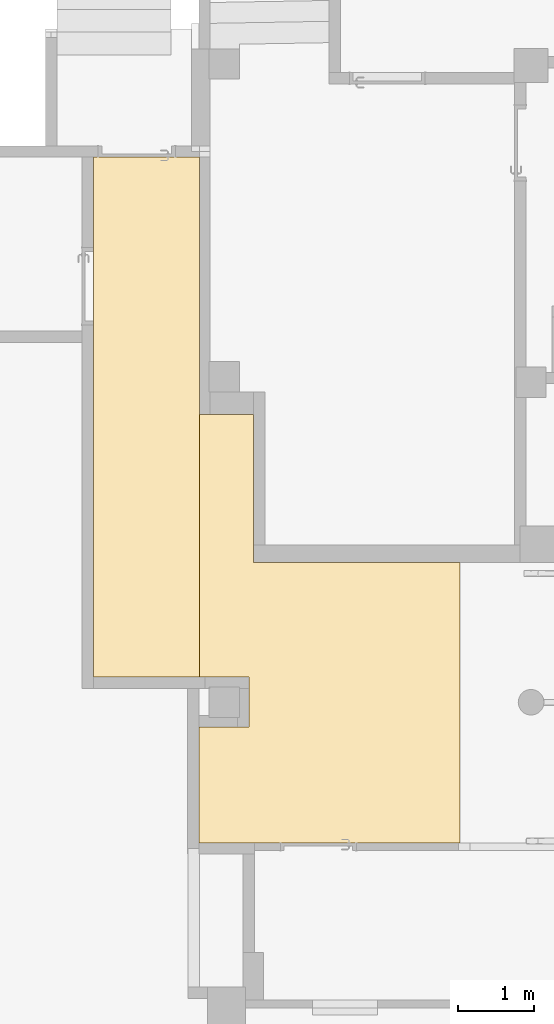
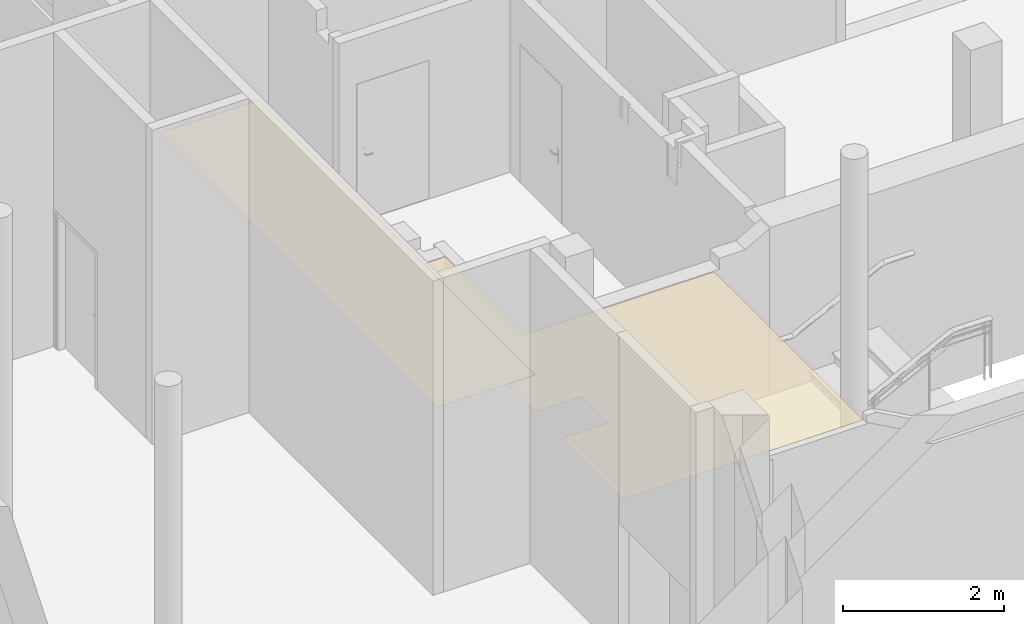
# One storey, part 35 of 39: 2 coverings.
"""IFC4 building model written with IfcOpenShell, lengths in metres."""

import ifcopenshell
import ifcopenshell.guid

model = None  # the IFC model being written
_history = None  # IfcOwnerHistory: only IFC2X3 demands one
_inside = {}  # id of a spatial element -> (the spatial element, [elements in it])
_under = {}  # id of a project, library or spatial element -> (it, [spatial elements below it])
_declared = {}  # id of a project -> (the project, [libraries it declares])
_typed = {}  # id of a type object -> (the type object, [elements of that type])
_made_of = {}  # id of a material, layer set ... -> (it, [elements and type objects made of it])


def new_model(schema):
    """Start an empty IFC model of exactly this schema.

    Asked for "IFC4X3", IfcOpenShell would pick the latest addendum, in which some entities
    have other attributes; the version numbers below select the first issue.
    IFC2X3 requires an IfcOwnerHistory on every rooted entity: one is made here for all.
    """
    global model, _history
    if schema == "IFC4X3":
        model = ifcopenshell.file(schema_version=(4, 3, 0, 0))
    else:
        model = ifcopenshell.file(schema=schema)
    _inside.clear()
    _under.clear()
    _declared.clear()
    _typed.clear()
    _made_of.clear()
    _history = None
    if model.schema == "IFC2X3":
        org = make("IfcOrganization", Name="unknown")
        user = make(
            "IfcPersonAndOrganization",
            ThePerson=make("IfcPerson", FamilyName="unknown"),
            TheOrganization=org,
        )
        app = make(
            "IfcApplication",
            ApplicationDeveloper=org,
            Version="unknown",
            ApplicationFullName="unknown",
            ApplicationIdentifier="unknown",
        )
        _history = make(
            "IfcOwnerHistory",
            OwningUser=user,
            OwningApplication=app,
            ChangeAction="ADDED",
            CreationDate=0,
        )
    return model


def make(cls, **values):
    """One entity of the class cls with the attributes given. An attribute that is None is left unset."""
    return model.create_entity(
        cls, **{name: value for name, value in values.items() if value is not None}
    )


def entity(cls, *values):
    """Any entity or typed value of the class cls, its attributes in the order of the schema. None: left unset."""
    e = model.create_entity(cls)
    for i, value in enumerate(values):
        if value is not None:
            e[i] = value
    return e


def rooted(cls, **values):
    """An entity with a GlobalId (a new one), such as an element, a storey or a relation."""
    return make(cls, GlobalId=ifcopenshell.guid.new(), OwnerHistory=_history, **values)


def si_unit(unit_type, name, prefix=None):
    """IfcSIUnit, for example si_unit("LENGTHUNIT", "METRE", prefix="MILLI")."""
    return make("IfcSIUnit", UnitType=unit_type, Prefix=prefix, Name=name)


def converted_unit(unit_type, name, factor, base, dimensions=None, offset=None):
    """IfcConversionBasedUnit, such as the inch: factor (a typed value) times the base unit."""
    return make(
        "IfcConversionBasedUnit"
        if offset is None
        else "IfcConversionBasedUnitWithOffset",
        ConversionOffset=offset,
        Dimensions=None
        if dimensions is None
        else entity("IfcDimensionalExponents", *dimensions),
        UnitType=unit_type,
        Name=name,
        ConversionFactor=make(
            "IfcMeasureWithUnit", ValueComponent=factor, UnitComponent=base
        ),
    )


def derived_unit(unit_type, elements):
    """IfcDerivedUnit: a product of units, each with its exponent."""
    return make(
        "IfcDerivedUnit",
        Elements=[
            make("IfcDerivedUnitElement", Unit=unit, Exponent=power)
            for unit, power in elements
        ],
        UnitType=unit_type,
    )


def assignment(units):
    """IfcUnitAssignment: the units of a project."""
    return None if units is None else make("IfcUnitAssignment", Units=units)


def point(xyz):
    """IfcCartesianPoint."""
    return None if xyz is None else make("IfcCartesianPoint", Coordinates=xyz)


def direction(xyz):
    """IfcDirection."""
    return None if xyz is None else make("IfcDirection", DirectionRatios=xyz)


def frame(location, z_axis=None, x_axis=None):
    """IfcAxis2Placement3D, a coordinate frame: its origin and axes. An axis left out is left unset."""
    return make(
        "IfcAxis2Placement3D",
        Location=point(location),
        Axis=direction(z_axis),
        RefDirection=direction(x_axis),
    )


def origin():
    """The frame at (0, 0, 0) with its axes left unset."""
    return frame((0.0, 0.0, 0.0))


def place(relative_to, where):
    """IfcLocalPlacement: puts the frame where relative to a parent placement (None: the world)."""
    return make(
        "IfcLocalPlacement", PlacementRelTo=relative_to, RelativePlacement=where
    )


def context(
    kind, dimensions, precision=None, world=None, true_north=None, identifier=None
):
    """IfcGeometricRepresentationContext, for example the 3D "Model" context."""
    return make(
        "IfcGeometricRepresentationContext",
        ContextIdentifier=identifier,
        ContextType=kind,
        CoordinateSpaceDimension=dimensions,
        Precision=precision,
        WorldCoordinateSystem=world,
        TrueNorth=true_north,
    )


def subcontext(parent, identifier, kind, view, scale=None):
    """IfcGeometricRepresentationSubContext, for example "Body" below "Model"."""
    return make(
        "IfcGeometricRepresentationSubContext",
        ContextIdentifier=identifier,
        ContextType=kind,
        ParentContext=parent,
        TargetScale=scale,
        TargetView=view,
    )


def project(units=None, contexts=None):
    """IfcProject with its units and contexts."""
    return rooted(
        "IfcProject",
        Name="project",
        RepresentationContexts=contexts,
        UnitsInContext=assignment(units),
    )


def spatial(cls, under=None, at=None, **own):
    """A site, building, storey or space (cls), placed at a placement, below another one or the project."""
    s = rooted(cls, ObjectPlacement=at, **own)
    if under is not None:
        _under.setdefault(under.id(), (under, []))[1].append(s)
    return s


def point_list(points):
    """IfcCartesianPointList2D or 3D."""
    cls = (
        "IfcCartesianPointList2D" if len(points[0]) == 2 else "IfcCartesianPointList3D"
    )
    return make(cls, CoordList=points)


def polygons(points, faces, closed=None, point_numbers=None):
    """IfcPolygonalFaceSet: a face is its outer loop, then its inner loops; points numbered from 1."""
    made = []
    for loops in faces:
        if len(loops) == 1:
            made.append(make("IfcIndexedPolygonalFace", CoordIndex=loops[0]))
        else:
            made.append(
                make(
                    "IfcIndexedPolygonalFaceWithVoids",
                    CoordIndex=loops[0],
                    InnerCoordIndices=loops[1:],
                )
            )
    return make(
        "IfcPolygonalFaceSet",
        Coordinates=point_list(points),
        Closed=closed,
        Faces=made,
        PnIndex=point_numbers,
    )


def shape(context_of_items, identifier, shape_type, items):
    """IfcShapeRepresentation: the items that make up one representation, for example the "Body"."""
    return make(
        "IfcShapeRepresentation",
        ContextOfItems=context_of_items,
        RepresentationIdentifier=identifier,
        RepresentationType=shape_type,
        Items=items,
    )


def material(Name=None, Category=None):
    """IfcMaterial."""
    return make("IfcMaterial", Name=Name, Category=Category)


def layer(
    of_material, thickness, ventilated=None, Name=None, Category=None, Priority=None
):
    """IfcMaterialLayer: one layer of a wall or slab, of a material (None: an air gap)."""
    return make(
        "IfcMaterialLayer",
        Material=of_material,
        LayerThickness=thickness,
        IsVentilated=ventilated,
        Name=Name,
        Category=Category,
        Priority=Priority,
    )


def layer_set(layers, Name=None):
    """IfcMaterialLayerSet."""
    return make("IfcMaterialLayerSet", MaterialLayers=layers, LayerSetName=Name)


def made_of(thing, what):
    """Note that an element or type object is made of a material, layer set ...; save() writes the relation."""
    if what is not None:
        _made_of.setdefault(what.id(), (what, []))[1].append(thing)
    return thing


def type_object(cls, material=None, **own):
    """A type object (cls), such as IfcWallType, which elements share."""
    return made_of(rooted(cls, **own), material)


def element(
    cls,
    number,
    at=None,
    inside=None,
    cuts=None,
    type_object=None,
    material=None,
    context=None,
    identifier="Body",
    shape_type=None,
    held_by="IfcProductDefinitionShape",
    body=None,
    shapes=None,
    **own,
):
    """One element of the class cls, such as IfcWall. Its Tag is "e" and its number.

    at: its placement. inside: the storey or other place that contains it. cuts: it is an
    opening in that element (IfcRelVoidsElement). A single representation is given by context,
    identifier, shape_type and body (its items); several are given by shapes. held_by: the class
    of the entity that holds the representations. save() writes the other relations.
    """
    e = rooted(cls, Tag="e%d" % number, ObjectPlacement=at, **own)
    if body is not None:
        shapes = [shape(context, identifier, shape_type, body)]
    if shapes is not None:
        e.Representation = make(held_by, Representations=shapes)
    if inside is not None:
        _inside.setdefault(inside.id(), (inside, []))[1].append(e)
    if cuts is not None:
        rooted(
            "IfcRelVoidsElement", RelatingBuildingElement=cuts, RelatedOpeningElement=e
        )
    if type_object is not None:
        _typed.setdefault(type_object.id(), (type_object, []))[1].append(e)
    return made_of(e, material)


def aggregate(whole, parts):
    """IfcRelAggregates: a whole, such as a stair, and the parts it consists of."""
    return rooted("IfcRelAggregates", RelatingObject=whole, RelatedObjects=parts)


def save(model, path):
    """Write the relations noted so far, then the file.

    IfcRelAggregates (storeys below a building ...), IfcRelContainedInSpatialStructure (elements
    in a storey), IfcRelDefinesByType, IfcRelAssociatesMaterial and IfcRelDeclares: one each for
    every whole, place, type object, material and project.
    """
    for whole, parts in _under.values():
        aggregate(whole, parts)
    for where, things in _inside.values():
        rooted(
            "IfcRelContainedInSpatialStructure",
            RelatedElements=things,
            RelatingStructure=where,
        )
    for kind, things in _typed.values():
        rooted("IfcRelDefinesByType", RelatedObjects=things, RelatingType=kind)
    for what, things in _made_of.values():
        rooted("IfcRelAssociatesMaterial", RelatedObjects=things, RelatingMaterial=what)
    for by, libraries in _declared.values():
        rooted("IfcRelDeclares", RelatingContext=by, RelatedDefinitions=libraries)
    model.write(path)


model = new_model("IFC4")

# Units and contexts
model_context = context("Model", 3, precision=1e-05, world=origin(), true_north=direction((6.12303176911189e-17, 1.0)))
body_context = subcontext(model_context, "Body", "Model", "MODEL_VIEW")
ifc_project = project(units=[si_unit("LENGTHUNIT", "METRE"), si_unit("AREAUNIT", "SQUARE_METRE"), si_unit("VOLUMEUNIT", "CUBIC_METRE"), converted_unit("PLANEANGLEUNIT", "DEGREE", entity("IfcRatioMeasure", 0.0174532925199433), si_unit("PLANEANGLEUNIT", "RADIAN"), dimensions=[0, 0, 0, 0, 0, 0, 0]), si_unit("MASSUNIT", "GRAM", prefix="KILO"), derived_unit("MASSDENSITYUNIT", [(si_unit("MASSUNIT", "GRAM", prefix="KILO"), 1), (si_unit("LENGTHUNIT", "METRE"), -3)]), derived_unit("MOMENTOFINERTIAUNIT", [(si_unit("LENGTHUNIT", "METRE"), 4)]), si_unit("TIMEUNIT", "SECOND"), si_unit("FREQUENCYUNIT", "HERTZ"), si_unit("THERMODYNAMICTEMPERATUREUNIT", "DEGREE_CELSIUS"), derived_unit("THERMALTRANSMITTANCEUNIT", [(si_unit("MASSUNIT", "GRAM", prefix="KILO"), 1), (si_unit("THERMODYNAMICTEMPERATUREUNIT", "KELVIN"), -1), (si_unit("TIMEUNIT", "SECOND"), -3)]), derived_unit("VOLUMETRICFLOWRATEUNIT", [(si_unit("LENGTHUNIT", "METRE"), 3), (si_unit("TIMEUNIT", "SECOND"), -1)]), si_unit("ELECTRICCURRENTUNIT", "AMPERE"), si_unit("ELECTRICVOLTAGEUNIT", "VOLT"), si_unit("POWERUNIT", "WATT"), si_unit("FORCEUNIT", "NEWTON", prefix="KILO"), si_unit("ILLUMINANCEUNIT", "LUX"), si_unit("LUMINOUSFLUXUNIT", "LUMEN"), si_unit("LUMINOUSINTENSITYUNIT", "CANDELA"), derived_unit("USERDEFINED", [(si_unit("MASSUNIT", "GRAM", prefix="KILO"), -1), (si_unit("LENGTHUNIT", "METRE"), -2), (si_unit("TIMEUNIT", "SECOND"), 3), (si_unit("LUMINOUSFLUXUNIT", "LUMEN"), 1)]), derived_unit("LINEARVELOCITYUNIT", [(si_unit("LENGTHUNIT", "METRE"), 1), (si_unit("TIMEUNIT", "SECOND"), -1)]), si_unit("PRESSUREUNIT", "PASCAL"), derived_unit("USERDEFINED", [(si_unit("LENGTHUNIT", "METRE"), -2), (si_unit("MASSUNIT", "GRAM", prefix="KILO"), 1), (si_unit("TIMEUNIT", "SECOND"), -2)]), derived_unit("LINEARFORCEUNIT", [(si_unit("MASSUNIT", "GRAM", prefix="KILO"), 1), (si_unit("LENGTHUNIT", "METRE"), 1), (si_unit("TIMEUNIT", "SECOND"), -2), (si_unit("LENGTHUNIT", "METRE"), -1)]), derived_unit("PLANARFORCEUNIT", [(si_unit("MASSUNIT", "GRAM", prefix="KILO"), 1), (si_unit("LENGTHUNIT", "METRE"), 1), (si_unit("TIMEUNIT", "SECOND"), -2), (si_unit("LENGTHUNIT", "METRE"), -2)])], contexts=[model_context])

# Site, building, storey
site_placement = place(None, origin())
site = spatial("IfcSite", under=ifc_project, at=site_placement, Name="Default", CompositionType="ELEMENT")
building_placement = place(site_placement, origin())
building = spatial("IfcBuilding", under=site, at=building_placement, Name="HOTEL CONSULAIRE BOULOGNE SUR MER", CompositionType="ELEMENT")
storey_placement = place(building_placement, frame((0.0, 0.0, -5.02343668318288)))
storey = spatial("IfcBuildingStorey", under=building, at=storey_placement, Name="SS3", CompositionType="ELEMENT", Elevation=-5.02343668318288)

# Coverings
ifc_material = material(Name="Faux-plafond - Trame 600 x 600", Category="Divers")
ifc_layer = layer(ifc_material, 0.0, Name="Faux-plafond - Trame 600 x 600", Category="Divers")
ifc_layer_set = layer_set([ifc_layer], Name="Plafond de base:Plafond 600 mm x 1200 mm")
covering_type_1 = type_object("IfcCoveringType", Name="Plafond de base:Plafond 600 mm x 1200 mm", PredefinedType="CEILING")
covering_1_placement = place(storey_placement, frame((-7.00398856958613, -23.6845842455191, 2.70391091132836)))
element("IfcCovering", 1, at=covering_1_placement, inside=storey, type_object=covering_type_1, material=ifc_layer_set, Name="Plafond de base:Plafond 600 mm x 1200 mm", ObjectType="Plafond de base:Plafond 600 mm x 1200 mm", PredefinedType="CEILING", context=body_context, shape_type="Tessellation", body=[
    polygons([(1.40200000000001, 6.86, 0.0), (1.08286712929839e-14, 6.86000000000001, 0.0), (0.0, 8.66293703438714e-15, 0.0), (1.402, 0.0, 0.0)], [[[2, 3, 4, 1]]], closed=True),
])
covering_type_2 = type_object("IfcCoveringType", Name="Plafond de base:Plafond 600 mm x 1200 mm", PredefinedType="CEILING")
covering_2_placement = place(storey_placement, frame((-5.61220574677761, -25.8707560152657, 2.144)))
element("IfcCovering", 2, at=covering_2_placement, inside=storey, type_object=covering_type_2, material=ifc_layer_set, Name="Plafond de base:Plafond 600 mm x 1200 mm", ObjectType="Plafond de base:Plafond 600 mm x 1200 mm", PredefinedType="CEILING", context=body_context, shape_type="Tessellation", body=[
    polygons([(0.0102171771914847, 2.18617176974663, 0.0), (0.662000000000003, 2.18617176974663, 0.0), (0.662000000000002, 1.52817176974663, 0.0), (2.16573425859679e-15, 1.52817176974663, 0.0), (0.0, 2.16573425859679e-14, 0.0), (3.4444971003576, 0.0, 0.0), (3.4444971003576, 3.70153696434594, 0.0), (0.724432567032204, 3.70153696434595, 0.0), (0.724432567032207, 5.64895069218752, 0.0), (0.0102171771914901, 5.64895069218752, 0.0)], [[[4, 5, 6, 7, 8, 9, 10, 1, 2, 3]]], closed=True),
])

save(model, "model.ifc")
